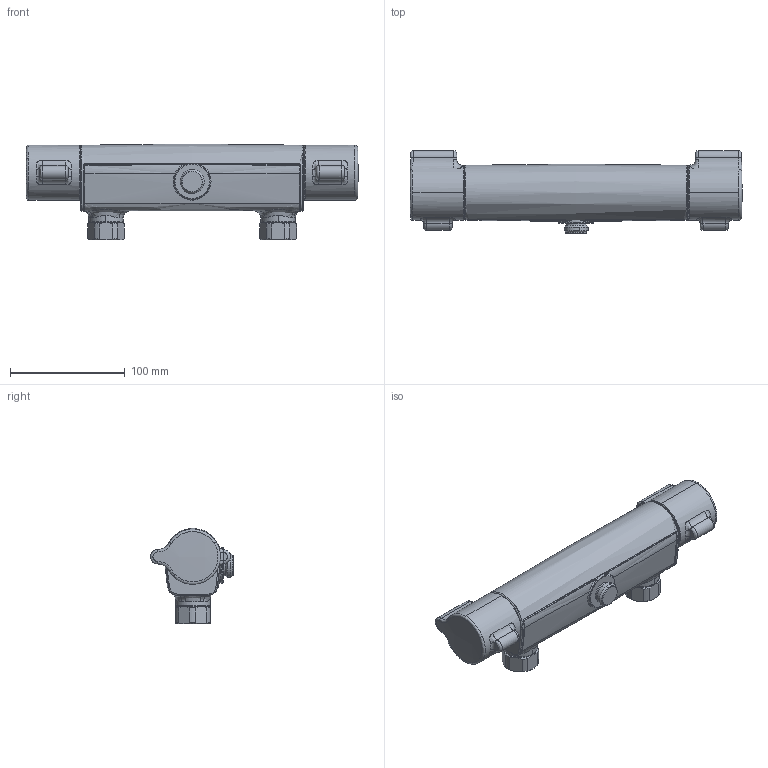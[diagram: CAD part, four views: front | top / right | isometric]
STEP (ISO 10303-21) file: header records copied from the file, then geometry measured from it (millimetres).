
FILE_DESCRIPTION (( 'STEP AP203' ), '1' );
FILE_NAME ('5665(2021).STEP', '2021-07-14T10:15:30', ( '' ), ( '' ), 'SwSTEP 2.0', 'SolidWorks 2016', '' );
FILE_SCHEMA (( 'CONFIG_CONTROL_DESIGN' ));
Length unit declared in the file: millimetre
Products named in the file (1): 5665(2021)
Bounding box: 289.18 x 72.19 x 83.4 mm (x, y, z)
Volume: 325451.4 mm3; surface area: 111009.8 mm2
Topology: 1 solids, 1 shells, 480 faces, 1147 edges, 680 vertices
Faces by surface type: bspline 195, cylinder 147, plane 66, cone 34, sphere 26, torus 12
Entity records: 30298 total; most frequent: CARTESIAN_POINT 20729, ORIENTED_EDGE 2270, DIRECTION 1573, EDGE_CURVE 1135, VERTEX_POINT 680, AXIS2_PLACEMENT_3D 666, EDGE_LOOP 507, FACE_OUTER_BOUND 480
